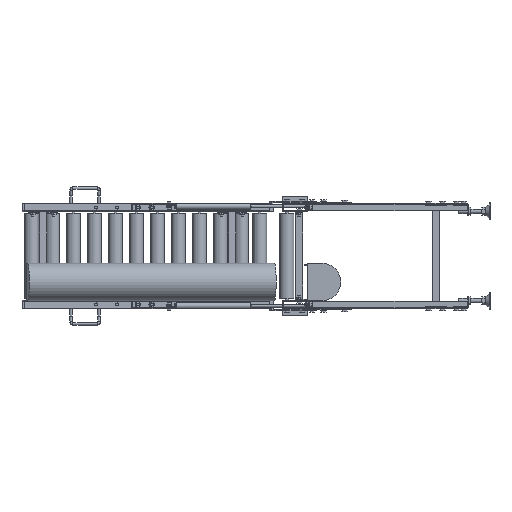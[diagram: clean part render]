
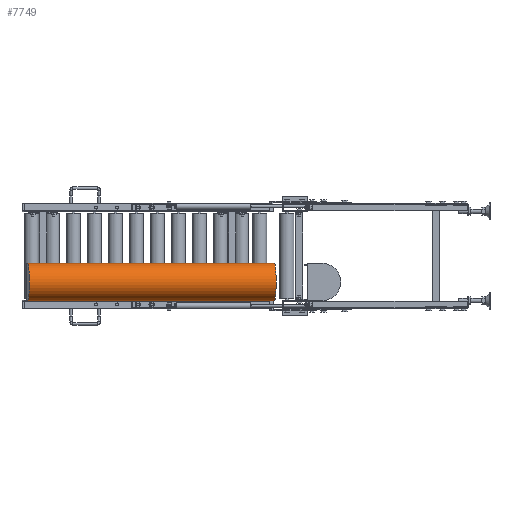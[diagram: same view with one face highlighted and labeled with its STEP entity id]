
A CAD part, left-side view. The second image highlights one B-rep face of the part: STEP entity #7749.
In plain terms, the highlighted cylindrical face has radius 66.89 mm (diameter 133.78 mm), a partial arc.
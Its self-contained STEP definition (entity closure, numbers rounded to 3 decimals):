
#2588 = VERTEX_POINT ( 'NONE', #58126 ) ;
#5064 = CYLINDRICAL_SURFACE ( 'NONE', #49173, 66.89 ) ;
#7533 = CARTESIAN_POINT ( 'NONE',  ( -78.917, 18.539, -92.61 ) ) ;
#7749 = ADVANCED_FACE ( 'NONE', ( #30722 ), #5064, .T. ) ;
#9925 = EDGE_LOOP ( 'NONE', ( #50310, #52687, #22676, #12992 ) ) ;
#12113 = VECTOR ( 'NONE', #45097, 1000. ) ;
#12992 = ORIENTED_EDGE ( 'NONE', *, *, #31461, .F. ) ;
#13688 = EDGE_CURVE ( 'NONE', #55411, #36108, #23810, .T. ) ;
#15893 = CARTESIAN_POINT ( 'NONE',  ( -63.444, -158.438, -159.5 ) ) ;
#17767 = DIRECTION ( 'NONE',  ( 0., 0., 1. ) ) ;
#19891 = CARTESIAN_POINT ( 'NONE',  ( -155.735, 897.187, -92.61 ) ) ;
#20877 = VERTEX_POINT ( 'NONE', #23150 ) ;
#22676 = ORIENTED_EDGE ( 'NONE', *, *, #13688, .T. ) ;
#23150 = CARTESIAN_POINT ( 'NONE',  ( -155.735, 897.187, -159.5 ) ) ;
#23810 = LINE ( 'NONE', #75737, #26549 ) ;
#24173 = DIRECTION ( 'NONE',  ( -0.087, 0.996, 0. ) ) ;
#26549 = VECTOR ( 'NONE', #68802, 1000. ) ;
#30722 = FACE_OUTER_BOUND ( 'NONE', #9925, .T. ) ;
#31461 = EDGE_CURVE ( 'NONE', #20877, #36108, #56040, .T. ) ;
#31581 = AXIS2_PLACEMENT_3D ( 'NONE', #19891, #34004, #45492 ) ;
#34004 = DIRECTION ( 'NONE',  ( -0.087, 0.996, 0. ) ) ;
#36108 = VERTEX_POINT ( 'NONE', #75501 ) ;
#39601 = LINE ( 'NONE', #15893, #12113 ) ;
#40814 = CARTESIAN_POINT ( 'NONE',  ( -63.444, -158.438, -92.61 ) ) ;
#45097 = DIRECTION ( 'NONE',  ( -0.087, 0.996, 0. ) ) ;
#45492 = DIRECTION ( 'NONE',  ( 0., 0., -1. ) ) ;
#48626 = AXIS2_PLACEMENT_3D ( 'NONE', #7533, #24173, #65580 ) ;
#49173 = AXIS2_PLACEMENT_3D ( 'NONE', #40814, #57043, #17767 ) ;
#50310 = ORIENTED_EDGE ( 'NONE', *, *, #76235, .F. ) ;
#52687 = ORIENTED_EDGE ( 'NONE', *, *, #53858, .T. ) ;
#53858 = EDGE_CURVE ( 'NONE', #2588, #55411, #61792, .T. ) ;
#55411 = VERTEX_POINT ( 'NONE', #63292 ) ;
#56040 = CIRCLE ( 'NONE', #31581, 66.89 ) ;
#57043 = DIRECTION ( 'NONE',  ( -0.087, 0.996, 0. ) ) ;
#58126 = CARTESIAN_POINT ( 'NONE',  ( -78.917, 18.539, -159.5 ) ) ;
#61792 = CIRCLE ( 'NONE', #48626, 66.89 ) ;
#63292 = CARTESIAN_POINT ( 'NONE',  ( -78.917, 18.539, -25.72 ) ) ;
#65580 = DIRECTION ( 'NONE',  ( 0., 0., -1. ) ) ;
#68802 = DIRECTION ( 'NONE',  ( -0.087, 0.996, 0. ) ) ;
#75501 = CARTESIAN_POINT ( 'NONE',  ( -155.735, 897.187, -25.72 ) ) ;
#75737 = CARTESIAN_POINT ( 'NONE',  ( -63.444, -158.438, -25.72 ) ) ;
#76235 = EDGE_CURVE ( 'NONE', #2588, #20877, #39601, .T. ) ;
